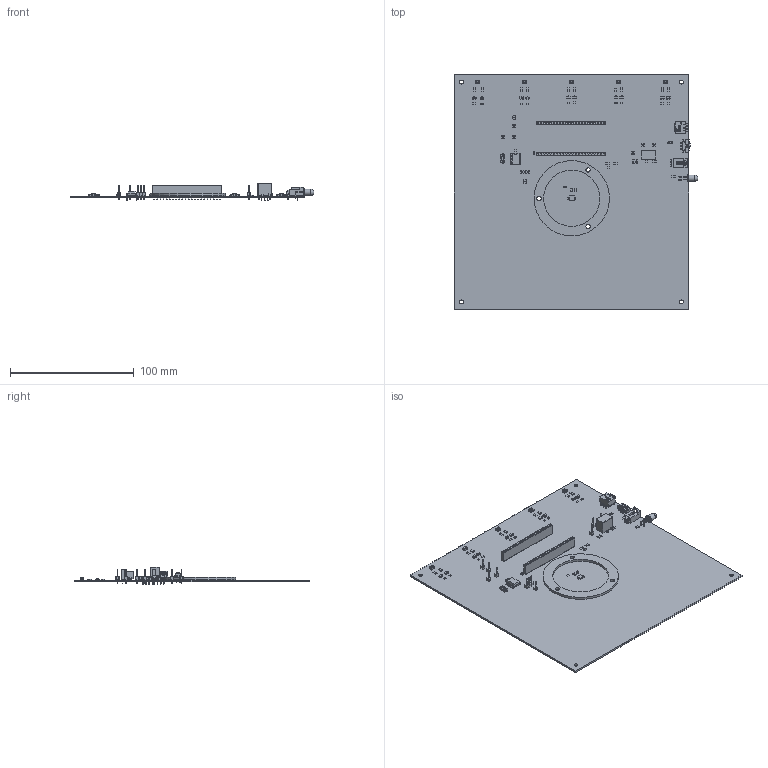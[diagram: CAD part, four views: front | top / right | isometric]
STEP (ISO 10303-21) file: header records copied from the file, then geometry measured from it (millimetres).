
FILE_DESCRIPTION(('KiCad electronic assembly'),'2;1');
FILE_NAME('projet_Kicad_cible.step','2025-05-28T18:31:55',('Pcbnew'),( 'Kicad'),'Open CASCADE STEP processor 7.8','KiCad to STEP converter' ,'Unknown');
FILE_SCHEMA(('AUTOMOTIVE_DESIGN { 1 0 10303 214 1 1 1 1 }'));
Length unit declared in the file: millimetre
Products named in the file (28): projet_Kicad_cible 1; SOT-23; PinHeader_1x01_P2.54mm_Vertical; Converter_DCDC_TRACO_TSR-1_THT; MMP_1010_D-RA; projet_Kicad_cible 1.4.1; R_1206_3216Metric; BPA03SBR; R_0805_2012Metric; C_0805_2012Metric; Base_support_lentille_pour_PCB; LED_Bicolore_TST-E682KRKGWT; VSOP38338; Body; ThermalPin; PinsArrayLR; LED_D5.0mm_Horizontal_O6.35mm_Z3.0mm; D_SOD-123; Polyswitch_MICROSMD110F-2; C_1206_3216Metric; SFH_2401; PinHeader_1x03_P2.54mm_Vertical; Embase_Molex_SL_2; DIP-8_W7.62mm; Tactile_SMD_3x6x2.5mm; PinSocket_1x22_P2.54mm_Vertical; projet_Kicad_cible_PCB; projet_Kicad_cible 2
Assembly tree (73 placements, depth 3):
  projet_Kicad_cible 1
    SOT-23  x10
    PinHeader_1x01_P2.54mm_Vertical  x8
    Converter_DCDC_TRACO_TSR-1_THT
    MMP_1010_D-RA
      projet_Kicad_cible 1.4.1
    R_1206_3216Metric  x13
    BPA03SBR
    R_0805_2012Metric  x11
    C_0805_2012Metric  x5
    Base_support_lentille_pour_PCB
    LED_Bicolore_TST-E682KRKGWT  x5
    VSOP38338
      Body
      ThermalPin
      PinsArrayLR
    LED_D5.0mm_Horizontal_O6.35mm_Z3.0mm
    D_SOD-123
    Polyswitch_MICROSMD110F-2
    C_1206_3216Metric
    SFH_2401
    PinHeader_1x03_P2.54mm_Vertical
    Embase_Molex_SL_2
    DIP-8_W7.62mm
    Tactile_SMD_3x6x2.5mm
    PinSocket_1x22_P2.54mm_Vertical  x2
    projet_Kicad_cible_PCB
  projet_Kicad_cible 2
Bounding box: 197.32 x 190 x 14.2 mm (x, y, z)
Volume: 61625.9 mm3; surface area: 84773.7 mm2
Topology: 100 solids, 106 shells, 5242 faces, 13534 edges, 8668 vertices
Faces by surface type: plane 4124, cylinder 758, bspline 326, sphere 27, torus 7
Full cylindrical faces by diameter (mm): 0.25 x1, 0.5 x3, 0.8 x11, 0.9 x2, 1 x14, 1.02 x44, 1.17 x6, 3.2 x4, 3.5 x6, 5 x1, 45.5 x1, 61 x1
Entity records: 99975 total; most frequent: CARTESIAN_POINT 16718, ORIENTED_EDGE 15040, DIRECTION 13734, EDGE_CURVE 7549, LINE 6612, VECTOR 6612, VERTEX_POINT 4894, AXIS2_PLACEMENT_3D 3561
